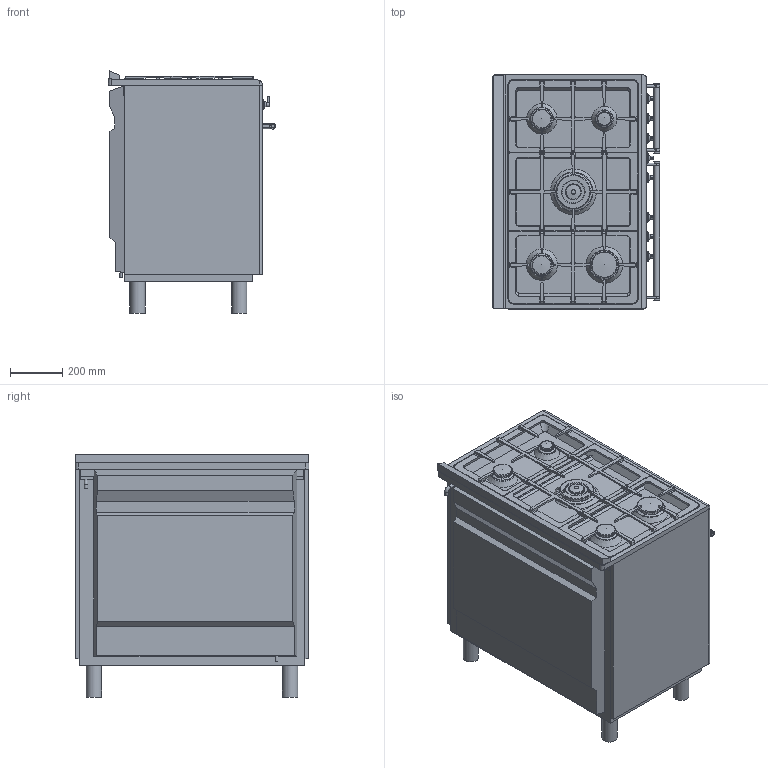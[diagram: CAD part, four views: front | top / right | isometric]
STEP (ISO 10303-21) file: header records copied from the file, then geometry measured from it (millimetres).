
FILE_DESCRIPTION(/* description */ ('Unknown'),/* implementation_level */ '2;1');
FILE_NAME(/* name */ 'SCB92PX8',/* time_stamp */ '2025-04-23T16:53:43+02:00',/* author */ ('Unknown'),/* organization */ ('Unknown'),/* preprocessor_version */ 'ST-DEVELOPER v16.7',/* originating_system */ 'DEX',/* authorisation */ $);
FILE_SCHEMA (('AUTOMOTIVE_DESIGN {1 0 10303 214 3 1 1}'));
Length unit declared in the file: millimetre
Products named in the file (1): SCB92PX8
Bounding box: 642.53 x 898 x 930.79 mm (x, y, z)
Volume: 372555975.3 mm3; surface area: 8522048.5 mm2
Topology: 79 solids, 79 shells, 896 faces, 2240 edges, 1512 vertices
Faces by surface type: plane 469, cylinder 300, bspline 68, cone 36, torus 20, sphere 3
Full cylindrical faces by diameter (mm): 4.608 x6, 8 x8, 8.5 x8, 10 x1, 13 x4, 13.5 x4, 14 x2, 14.995 x8, 22 x6, 55 x1, 59 x4, 60.611 x1, 65.5 x1, 75 x2, 85.5 x2, 85.7 x1, 100 x1, 110.5 x1, 131 x1, 147 x1
Entity records: 30056 total; most frequent: CARTESIAN_POINT 8973, DIRECTION 4151, ORIENTED_EDGE 4112, EDGE_CURVE 2056, AXIS2_PLACEMENT_3D 1530, VERTEX_POINT 1449, LINE 1091, VECTOR 1091
